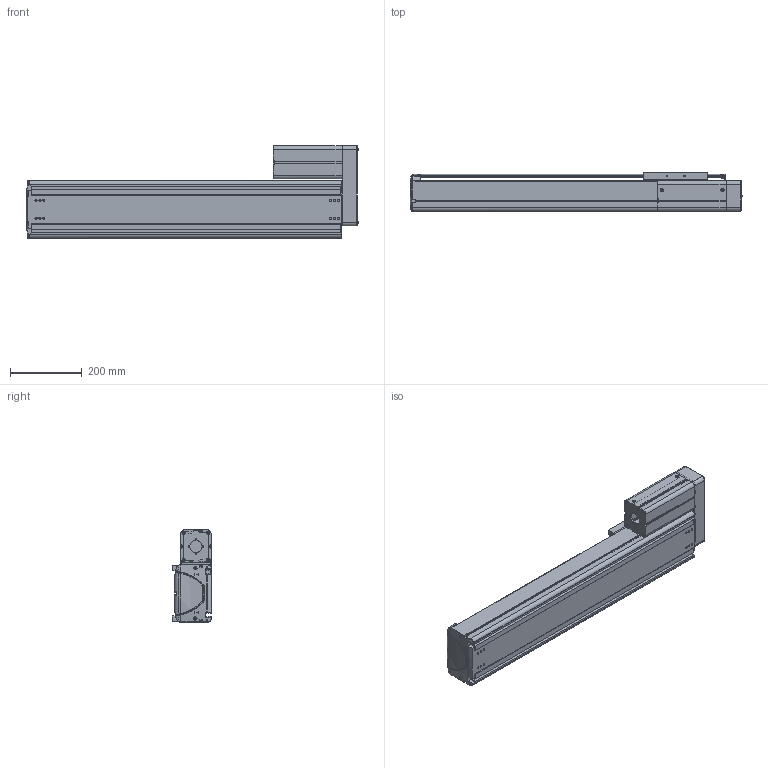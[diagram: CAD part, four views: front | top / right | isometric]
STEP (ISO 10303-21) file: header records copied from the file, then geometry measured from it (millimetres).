
FILE_DESCRIPTION((''),'2;1');
FILE_NAME('BE50F-UR-M_B-60_IGS_PRT','2017-06-18T',(' '),(''),'PRO/ENGINEER BY PARAMETRIC TECHNOLOGY CORPORATION, 2015030','PRO/ENGINEER BY PARAMETRIC TECHNOLOGY CORPORATION, 2015030','');
FILE_SCHEMA(('CONFIG_CONTROL_DESIGN'));
Length unit declared in the file: millimetre
Products named in the file (1): BE50F-UR-M_B-60_IGS_PRT
Bounding box: 925.88 x 110 x 257 mm (x, y, z)
Volume: 4594934.5 mm3; surface area: 1700748.2 mm2
Topology: 2 solids, 119 shells, 2159 faces, 5835 edges, 3805 vertices
Faces by surface type: plane 1004, cylinder 899, cone 117, torus 59, bspline 48, sphere 32
Entity records: 71045 total; most frequent: CARTESIAN_POINT 16037, DIRECTION 11562, ORIENTED_EDGE 11156, EDGE_CURVE 5798, AXIS2_PLACEMENT_3D 4109, VERTEX_POINT 3804, VECTOR 3344, LINE 3344
